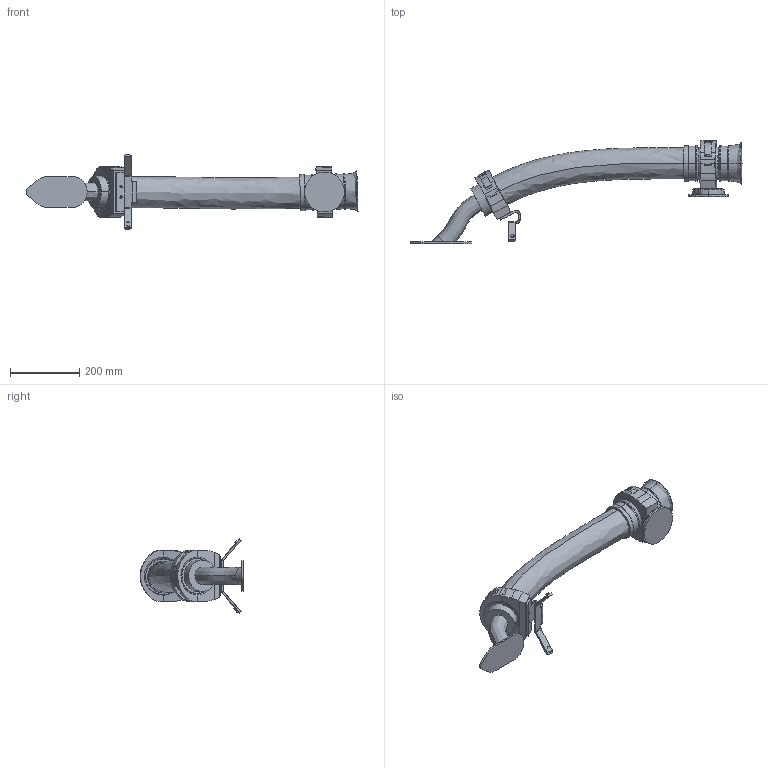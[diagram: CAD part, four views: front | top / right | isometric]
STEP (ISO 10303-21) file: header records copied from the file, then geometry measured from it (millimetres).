
FILE_DESCRIPTION (( 'STEP AP214' ), '1' );
FILE_NAME ('IRB7710-LID_All-285_OC_01_LINK04_CABLE.step', '2026-01-28T09:31:07', ( '' ), ( '' ), 'SwSTEP 2.0', 'SolidWorks 2024', '' );
FILE_SCHEMA (( 'AUTOMOTIVE_DESIGN' ));
Length unit declared in the file: millimetre
Products named in the file (1): IRB7710-LID_All-285_OC_01_LINK04_CABLE
Bounding box: 956.81 x 298.27 x 213.34 mm (x, y, z)
Volume: 6721427.6 mm3; surface area: 427462.8 mm2
Topology: 1 solids, 2 shells, 391 faces, 981 edges, 624 vertices
Faces by surface type: plane 201, cylinder 128, sphere 24, cone 20, bspline 16, torus 2
Entity records: 21203 total; most frequent: CARTESIAN_POINT 7573, ORIENTED_EDGE 1956, DIRECTION 1947, EDGE_CURVE 978, AXIS2_PLACEMENT_3D 732, VERTEX_POINT 623, VECTOR 483, LINE 483
